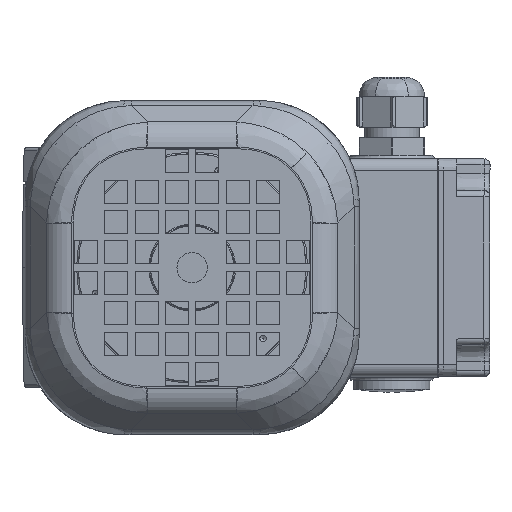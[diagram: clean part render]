
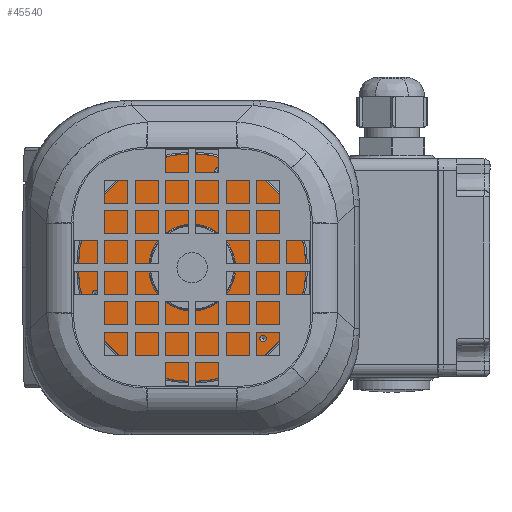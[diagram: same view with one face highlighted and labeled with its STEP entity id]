
A CAD part, left-side view. The second image highlights one B-rep face of the part: STEP entity #45540.
In plain terms, the highlighted planar face has unit normal (-1, 0, 0) as drawn and (0, 0, 1) by its records, which use the part's own axes.
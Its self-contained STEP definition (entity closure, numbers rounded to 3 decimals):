
#3014 = AXIS2_PLACEMENT_3D ( 'NONE', #35937, #46312, #56140 ) ;
#3696 = DIRECTION ( 'NONE',  ( 0., 0., 1. ) ) ;
#5328 = VERTEX_POINT ( 'NONE', #35064 ) ;
#6899 = CARTESIAN_POINT ( 'NONE',  ( 37.5, 0., 19.3 ) ) ;
#7486 = VERTEX_POINT ( 'NONE', #33948 ) ;
#7948 = CIRCLE ( 'NONE', #24358, 1.05 ) ;
#8825 = EDGE_CURVE ( 'NONE', #7486, #7486, #13403, .T. ) ;
#9410 = DIRECTION ( 'NONE',  ( 1., 0., 0. ) ) ;
#10763 = FACE_BOUND ( 'NONE', #29832, .T. ) ;
#11212 = DIRECTION ( 'NONE',  ( -0.5, 0.866, 0. ) ) ;
#11817 = AXIS2_PLACEMENT_3D ( 'NONE', #12457, #3696, #43206 ) ;
#12133 = FACE_OUTER_BOUND ( 'NONE', #54377, .T. ) ;
#12457 = CARTESIAN_POINT ( 'NONE',  ( 0., 0., 19.3 ) ) ;
#13403 = CIRCLE ( 'NONE', #37336, 1.05 ) ;
#14088 = ORIENTED_EDGE ( 'NONE', *, *, #8825, .F. ) ;
#16465 = EDGE_LOOP ( 'NONE', ( #14088 ) ) ;
#17066 = EDGE_CURVE ( 'NONE', #38372, #38372, #55101, .T. ) ;
#19746 = DIRECTION ( 'NONE',  ( 0., 0., 1. ) ) ;
#22368 = CARTESIAN_POINT ( 'NONE',  ( 9.591, -31.876, 19.3 ) ) ;
#22793 = AXIS2_PLACEMENT_3D ( 'NONE', #49173, #26457, #9410 ) ;
#22929 = ORIENTED_EDGE ( 'NONE', *, *, #54412, .T. ) ;
#23930 = EDGE_CURVE ( 'NONE', #41794, #41794, #53259, .T. ) ;
#24087 = CIRCLE ( 'NONE', #22793, 37.5 ) ;
#24358 = AXIS2_PLACEMENT_3D ( 'NONE', #37541, #46569, #11212 ) ;
#25501 = PLANE ( 'NONE',  #11817 ) ;
#26457 = DIRECTION ( 'NONE',  ( 0., 0., 1. ) ) ;
#29114 = EDGE_LOOP ( 'NONE', ( #38486 ) ) ;
#29215 = ORIENTED_EDGE ( 'NONE', *, *, #38691, .F. ) ;
#29832 = EDGE_LOOP ( 'NONE', ( #29215 ) ) ;
#33948 = CARTESIAN_POINT ( 'NONE',  ( -32.401, 7.632, 19.3 ) ) ;
#34693 = CARTESIAN_POINT ( 'NONE',  ( 14.3, 0., 19.3 ) ) ;
#35064 = CARTESIAN_POINT ( 'NONE',  ( 22.81, 24.244, 19.3 ) ) ;
#35937 = CARTESIAN_POINT ( 'NONE',  ( 0., 0., 19.3 ) ) ;
#37336 = AXIS2_PLACEMENT_3D ( 'NONE', #48950, #49336, #44314 ) ;
#37541 = CARTESIAN_POINT ( 'NONE',  ( 23.335, 23.335, 19.3 ) ) ;
#38372 = VERTEX_POINT ( 'NONE', #34693 ) ;
#38486 = ORIENTED_EDGE ( 'NONE', *, *, #17066, .T. ) ;
#38691 = EDGE_CURVE ( 'NONE', #5328, #5328, #7948, .T. ) ;
#39616 = AXIS2_PLACEMENT_3D ( 'NONE', #54948, #19746, #42471 ) ;
#40322 = FACE_BOUND ( 'NONE', #52533, .T. ) ;
#41794 = VERTEX_POINT ( 'NONE', #22368 ) ;
#42471 = DIRECTION ( 'NONE',  ( 1., 0., 0. ) ) ;
#43206 = DIRECTION ( 'NONE',  ( 1., 0., 0. ) ) ;
#43742 = VERTEX_POINT ( 'NONE', #6899 ) ;
#44314 = DIRECTION ( 'NONE',  ( -0.5, -0.866, 0. ) ) ;
#45540 = ADVANCED_FACE ( 'NONE', ( #49253, #12133, #40322, #10763, #50650 ), #25501, .T. ) ;
#46312 = DIRECTION ( 'NONE',  ( 0., 0., -1. ) ) ;
#46569 = DIRECTION ( 'NONE',  ( 0., 0., 1. ) ) ;
#48950 = CARTESIAN_POINT ( 'NONE',  ( -31.876, 8.541, 19.3 ) ) ;
#49173 = CARTESIAN_POINT ( 'NONE',  ( 0., 0., 19.3 ) ) ;
#49253 = FACE_BOUND ( 'NONE', #29114, .T. ) ;
#49336 = DIRECTION ( 'NONE',  ( 0., 0., 1. ) ) ;
#50618 = ORIENTED_EDGE ( 'NONE', *, *, #23930, .F. ) ;
#50650 = FACE_BOUND ( 'NONE', #16465, .T. ) ;
#52533 = EDGE_LOOP ( 'NONE', ( #50618 ) ) ;
#53259 = CIRCLE ( 'NONE', #39616, 1.05 ) ;
#54377 = EDGE_LOOP ( 'NONE', ( #22929 ) ) ;
#54412 = EDGE_CURVE ( 'NONE', #43742, #43742, #24087, .T. ) ;
#54948 = CARTESIAN_POINT ( 'NONE',  ( 8.541, -31.876, 19.3 ) ) ;
#55101 = CIRCLE ( 'NONE', #3014, 14.3 ) ;
#56140 = DIRECTION ( 'NONE',  ( 1., 0., 0. ) ) ;
